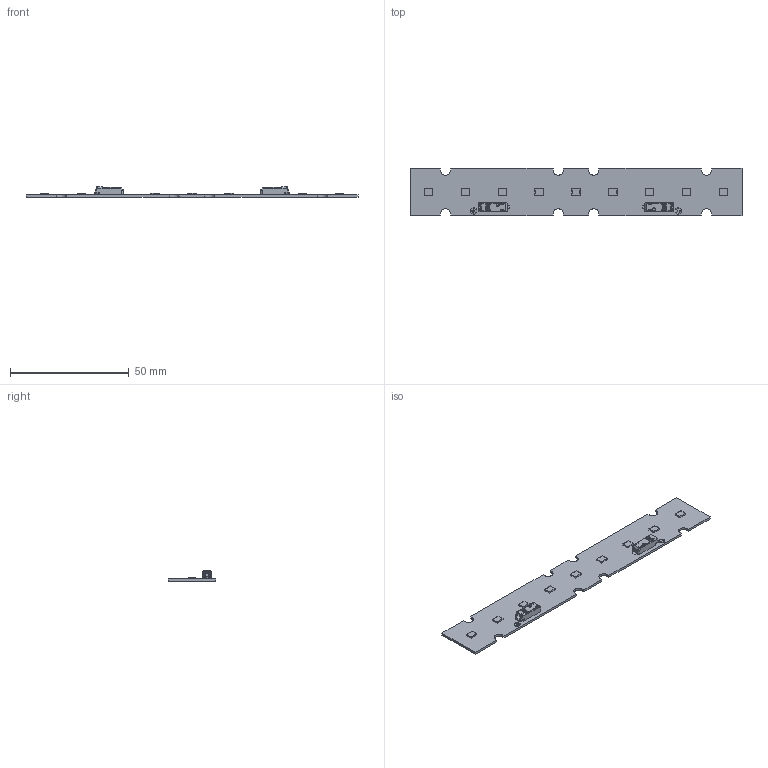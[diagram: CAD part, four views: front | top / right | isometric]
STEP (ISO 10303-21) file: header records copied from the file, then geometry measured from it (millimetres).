
FILE_DESCRIPTION(/* description */ ('Unknown'),/* implementation_level */ '2;1');
FILE_NAME(/* name */ 'LinLED 140x20mm 275lm 2C 9V sh-000 2025-05-22',/* time_stamp */ '2025-05-22T13:44:55+02:00',/* author */ ('Unknown'),/* organization */ ('Unknown'),/* preprocessor_version */ 'ST-DEVELOPER v18.102',/* originating_system */ 'Solid Edge',/* authorisation */ 'Unknown');
FILE_SCHEMA (('AUTOMOTIVE_DESIGN {1 0 10303 214 3 1 1}'));
Length unit declared in the file: millimetre
Products named in the file (1): LinLED 140x20mm 275lm 2C 9V sh-000 2025-05-22
Bounding box: 140 x 20 x 4.45 mm (x, y, z)
Volume: 3010.7 mm3; surface area: 6267.7 mm2
Topology: 1 solids, 1 shells, 669 faces, 1738 edges, 1088 vertices
Faces by surface type: plane 362, cylinder 144, torus 66, cone 50, bspline 26, sphere 21
Entity records: 25866 total; most frequent: CARTESIAN_POINT 5705, ORIENTED_EDGE 3404, DIRECTION 2850, EDGE_CURVE 1702, VERTEX_POINT 1077, LINE 1058, VECTOR 1058, AXIS2_PLACEMENT_3D 896
